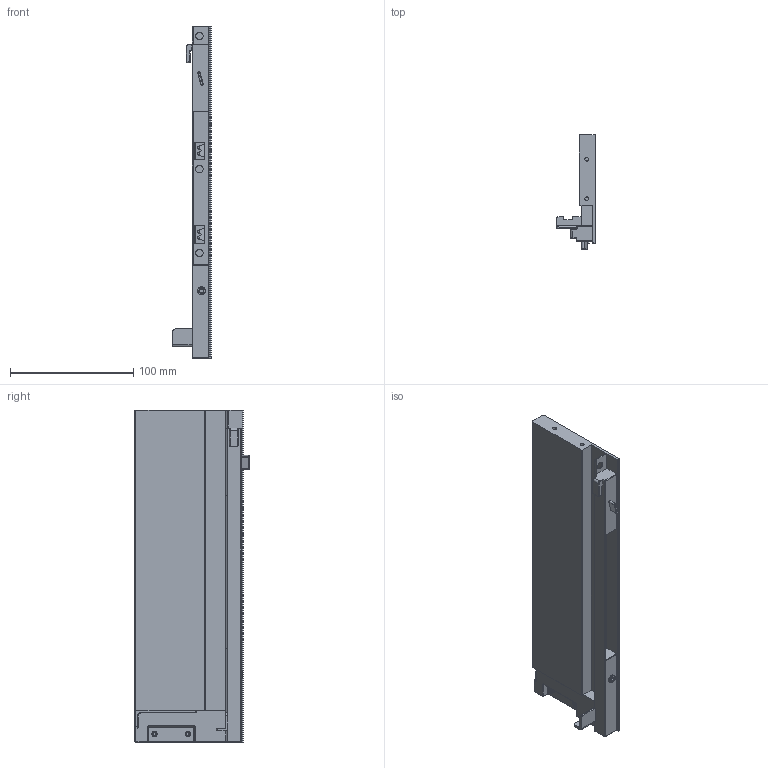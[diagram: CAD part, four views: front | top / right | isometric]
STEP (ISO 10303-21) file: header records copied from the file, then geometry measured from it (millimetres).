
FILE_DESCRIPTION (( 'STEP AP203' ), '1' );
FILE_NAME ('HT112701-R.STEP', '2022-06-28T08:34:53', ( 'Users' ), ( 'Microsoft' ), 'SwSTEP 2.0', 'SolidWorks 2018', '' );
FILE_SCHEMA (( 'CONFIG_CONTROL_DESIGN' ));
Length unit declared in the file: millimetre
Products named in the file (1): HT112701-R
Bounding box: 31.3 x 93 x 269 mm (x, y, z)
Volume: 239089.7 mm3; surface area: 68687.6 mm2
Topology: 1 solids, 8 shells, 367 faces, 924 edges, 573 vertices
Faces by surface type: plane 174, cylinder 129, torus 29, bspline 23, cone 6, sphere 6
Entity records: 11465 total; most frequent: CARTESIAN_POINT 2728, ORIENTED_EDGE 1830, DIRECTION 1776, EDGE_CURVE 915, AXIS2_PLACEMENT_3D 607, VERTEX_POINT 573, LINE 562, VECTOR 562
